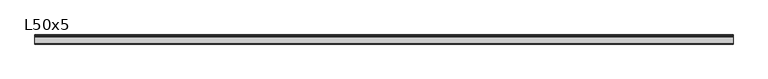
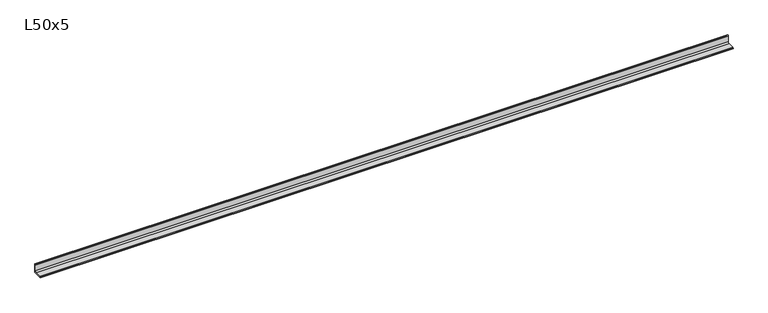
"""IFC4 building model written with IfcOpenShell, lengths in millimetres: beam geometry, Cornière à ailes égales : L50x5."""

from ifc_helpers import new_model, si_unit, point, frame, frame_2d, origin, place, context, project, spatial, polyline, circle_curve, trimmed, segment, composite_curve, outline, extrude, source, transform, mapped, element, save


def l50x5_0b9c2f02(model_context):
    return source(origin(), model_context, "Body", "SweptSolid", [
        extrude(outline(composite_curve([segment(polyline([(14.0, -14.0), (-36.0, -14.0), (-36.0, -12.5)]), True, "CONTINUOUS"), segment(trimmed(circle_curve(frame_2d((-32.5, -12.5)), 3.5), [point((-36.0, -12.5))], [point((-32.5, -9.0))], False, "CARTESIAN"), True, "CONTINUOUS"), segment(polyline([(-32.5, -9.0), (2.0, -9.0)]), True, "CONTINUOUS"), segment(trimmed(circle_curve(frame_2d((2.0, -2.0)), 7.0), [point((2.0, -9.0))], [point((9.0, -2.0))], True, "CARTESIAN"), True, "CONTINUOUS"), segment(polyline([(9.0, -2.0), (9.0, 32.5)]), True, "CONTINUOUS"), segment(trimmed(circle_curve(frame_2d((12.5, 32.5)), 3.5), [point((9.0, 32.5))], [point((12.5, 36.0))], False, "CARTESIAN"), True, "CONTINUOUS"), segment(polyline([(12.5, 36.0), (14.0, 36.0), (14.0, -14.0)]), True, "CONTINUOUS")], self_intersect=False)), frame((-1911.3, 0.0, 0.0), z_axis=(1.0, 0.0, 0.0), x_axis=(0.0, 1.0, 0.0)), (0.0, 0.0, 1.0), 3818.6),
    ])


if __name__ == "__main__":
    model = new_model("IFC4")
    model_context = context("Model", 3, world=origin())
    ifc_project = project(units=[si_unit("LENGTHUNIT", "METRE", prefix="MILLI")], contexts=[model_context])
    site = spatial("IfcSite", under=ifc_project)
    building = spatial("IfcBuilding", under=site)
    placement = place(None, origin())
    l50x5_shape = l50x5_0b9c2f02(model_context)
    element("IfcBeam", 1, ObjectType="Cornière à ailes égales : L50x5", at=placement, inside=building, context=model_context, shape_type="MappedRepresentation", body=[
        mapped(l50x5_shape, transform((0.0, 0.0, 0.0), x_axis=(1.0, 0.0, 0.0), y_axis=(0.0, 1.0, 0.0), z_axis=(0.0, 0.0, 1.0))),
    ])
    save(model, "model.ifc")
